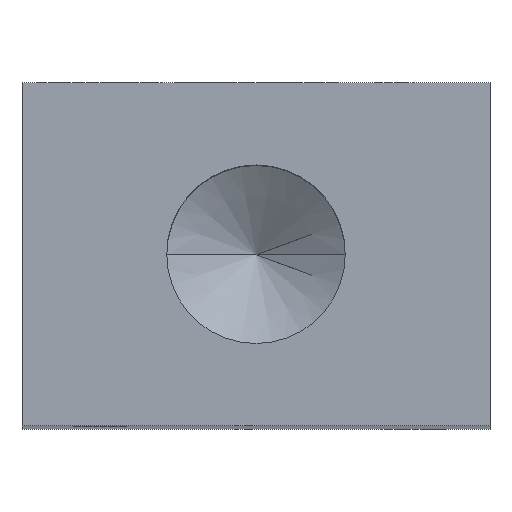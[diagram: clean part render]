
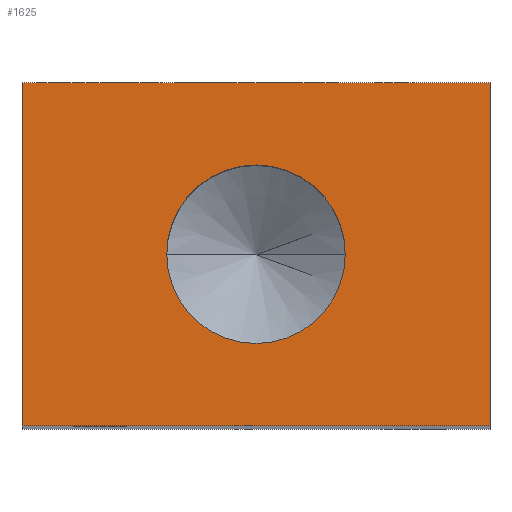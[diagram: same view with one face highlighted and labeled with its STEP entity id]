
A CAD part, top view. The second image highlights one B-rep face of the part: STEP entity #1625.
In plain terms, the highlighted planar face has unit normal (0, 0, 1).
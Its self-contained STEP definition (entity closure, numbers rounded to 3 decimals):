
#38 = CARTESIAN_POINT ( 'NONE',  ( 15., 11., 65. ) ) ;
#61 = CARTESIAN_POINT ( 'NONE',  ( -15., -11., 65. ) ) ;
#195 = VERTEX_POINT ( 'NONE', #1432 ) ;
#220 = CARTESIAN_POINT ( 'NONE',  ( -5.722, 0., 65. ) ) ;
#223 = AXIS2_PLACEMENT_3D ( 'NONE', #1641, #689, #697 ) ;
#308 = CARTESIAN_POINT ( 'NONE',  ( -15., 11., 65. ) ) ;
#323 = CARTESIAN_POINT ( 'NONE',  ( -15., 11., 65. ) ) ;
#353 = VERTEX_POINT ( 'NONE', #919 ) ;
#355 = CARTESIAN_POINT ( 'NONE',  ( -15., 11., 65. ) ) ;
#379 = EDGE_CURVE ( 'NONE', #1540, #195, #1145, .T. ) ;
#410 = ORIENTED_EDGE ( 'NONE', *, *, #1562, .F. ) ;
#421 = VECTOR ( 'NONE', #1677, 1000. ) ;
#426 = VERTEX_POINT ( 'NONE', #38 ) ;
#429 = AXIS2_PLACEMENT_3D ( 'NONE', #308, #1648, #1261 ) ;
#447 = CARTESIAN_POINT ( 'NONE',  ( 0., 0., 65. ) ) ;
#458 = ORIENTED_EDGE ( 'NONE', *, *, #1510, .F. ) ;
#595 = LINE ( 'NONE', #61, #1021 ) ;
#621 = CIRCLE ( 'NONE', #223, 5.722 ) ;
#664 = VERTEX_POINT ( 'NONE', #1110 ) ;
#684 = EDGE_CURVE ( 'NONE', #664, #1568, #621, .T. ) ;
#689 = DIRECTION ( 'NONE',  ( 0., 0., 1. ) ) ;
#697 = DIRECTION ( 'NONE',  ( 1., 0., 0. ) ) ;
#708 = DIRECTION ( 'NONE',  ( 1., 0., 0. ) ) ;
#729 = ORIENTED_EDGE ( 'NONE', *, *, #873, .F. ) ;
#766 = LINE ( 'NONE', #1313, #1290 ) ;
#775 = EDGE_LOOP ( 'NONE', ( #1634, #729 ) ) ;
#794 = ORIENTED_EDGE ( 'NONE', *, *, #379, .T. ) ;
#825 = CIRCLE ( 'NONE', #1417, 5.722 ) ;
#873 = EDGE_CURVE ( 'NONE', #1568, #664, #825, .T. ) ;
#919 = CARTESIAN_POINT ( 'NONE',  ( 15., -11., 65. ) ) ;
#955 = FACE_BOUND ( 'NONE', #775, .T. ) ;
#1021 = VECTOR ( 'NONE', #1269, 1000. ) ;
#1099 = FACE_OUTER_BOUND ( 'NONE', #1373, .T. ) ;
#1110 = CARTESIAN_POINT ( 'NONE',  ( 5.722, 0., 65. ) ) ;
#1145 = LINE ( 'NONE', #323, #421 ) ;
#1173 = EDGE_CURVE ( 'NONE', #195, #353, #595, .T. ) ;
#1254 = DIRECTION ( 'NONE',  ( 0., 0., 1. ) ) ;
#1261 = DIRECTION ( 'NONE',  ( -1., 0., 0. ) ) ;
#1269 = DIRECTION ( 'NONE',  ( 1., 0., 0. ) ) ;
#1290 = VECTOR ( 'NONE', #1720, 1000. ) ;
#1294 = DIRECTION ( 'NONE',  ( 0., -1., 0. ) ) ;
#1313 = CARTESIAN_POINT ( 'NONE',  ( -15., 11., 65. ) ) ;
#1318 = VECTOR ( 'NONE', #1294, 1000. ) ;
#1373 = EDGE_LOOP ( 'NONE', ( #1496, #458, #410, #794 ) ) ;
#1417 = AXIS2_PLACEMENT_3D ( 'NONE', #447, #1254, #708 ) ;
#1432 = CARTESIAN_POINT ( 'NONE',  ( -15., -11., 65. ) ) ;
#1496 = ORIENTED_EDGE ( 'NONE', *, *, #1173, .T. ) ;
#1510 = EDGE_CURVE ( 'NONE', #426, #353, #1667, .T. ) ;
#1530 = CARTESIAN_POINT ( 'NONE',  ( 15., 11., 65. ) ) ;
#1540 = VERTEX_POINT ( 'NONE', #355 ) ;
#1562 = EDGE_CURVE ( 'NONE', #1540, #426, #766, .T. ) ;
#1568 = VERTEX_POINT ( 'NONE', #220 ) ;
#1625 = ADVANCED_FACE ( 'NONE', ( #955, #1099 ), #1637, .F. ) ;
#1634 = ORIENTED_EDGE ( 'NONE', *, *, #684, .F. ) ;
#1637 = PLANE ( 'NONE',  #429 ) ;
#1641 = CARTESIAN_POINT ( 'NONE',  ( 0., 0., 65. ) ) ;
#1648 = DIRECTION ( 'NONE',  ( 0., 0., -1. ) ) ;
#1667 = LINE ( 'NONE', #1530, #1318 ) ;
#1677 = DIRECTION ( 'NONE',  ( 0., -1., 0. ) ) ;
#1720 = DIRECTION ( 'NONE',  ( 1., 0., 0. ) ) ;
